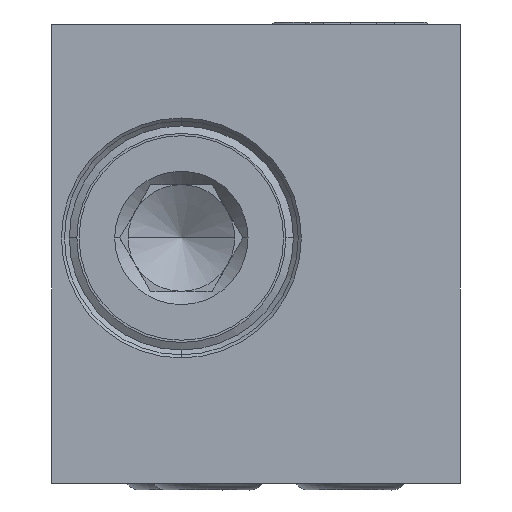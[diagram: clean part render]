
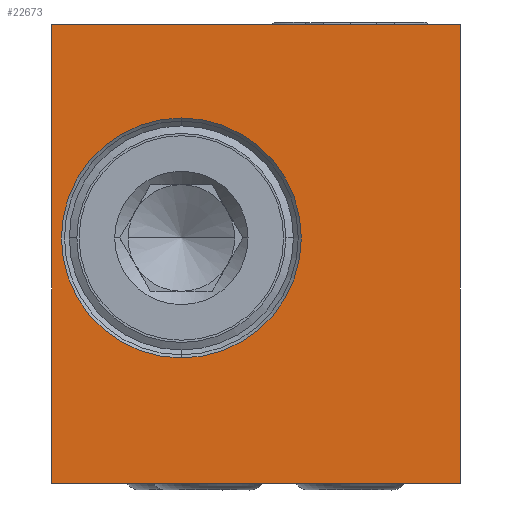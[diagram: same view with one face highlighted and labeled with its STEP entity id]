
A CAD part, left-side view. The second image highlights one B-rep face of the part: STEP entity #22673.
In plain terms, the highlighted planar face has unit normal (-1, 0, 0).
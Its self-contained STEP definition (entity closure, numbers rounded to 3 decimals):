
#4281=DIRECTION('',(0.,0.,1.));
#4282=VECTOR('',#4281,25.8);
#4283=CARTESIAN_POINT('',(-38.,11.5,-12.9));
#4284=LINE('',#4283,#4282);
#4285=DIRECTION('',(0.,-1.,0.));
#4286=VECTOR('',#4285,23.);
#4287=CARTESIAN_POINT('',(-38.,11.5,12.9));
#4288=LINE('',#4287,#4286);
#4289=DIRECTION('',(0.,0.,-1.));
#4290=VECTOR('',#4289,25.8);
#4291=CARTESIAN_POINT('',(-38.,-11.5,12.9));
#4292=LINE('',#4291,#4290);
#4293=DIRECTION('',(0.,1.,0.));
#4294=VECTOR('',#4293,23.);
#4295=CARTESIAN_POINT('',(-38.,-11.5,-12.9));
#4296=LINE('',#4295,#4294);
#4297=CARTESIAN_POINT('',(-38.,4.2,0.9));
#4298=DIRECTION('',(-1.,0.,0.));
#4299=DIRECTION('',(0.,0.,-1.));
#4300=AXIS2_PLACEMENT_3D('',#4297,#4298,#4299);
#4302=CARTESIAN_POINT('',(-38.,4.2,0.9));
#4303=DIRECTION('',(-1.,0.,0.));
#4304=DIRECTION('',(0.,0.,1.));
#4305=AXIS2_PLACEMENT_3D('',#4302,#4303,#4304);
#15367=CARTESIAN_POINT('',(-38.,11.5,12.9));
#15368=VERTEX_POINT('',#15367);
#15369=CARTESIAN_POINT('',(-38.,11.5,-12.9));
#15370=VERTEX_POINT('',#15369);
#15371=CARTESIAN_POINT('',(-38.,-11.5,12.9));
#15372=VERTEX_POINT('',#15371);
#15393=CARTESIAN_POINT('',(-38.,-11.5,-12.9));
#15394=VERTEX_POINT('',#15393);
#15439=CARTESIAN_POINT('',(-38.,4.2,-5.85));
#15440=CARTESIAN_POINT('',(-38.,4.2,7.65));
#15441=VERTEX_POINT('',#15439);
#15442=VERTEX_POINT('',#15440);
#22654=CARTESIAN_POINT('',(-38.,0.,0.));
#22655=DIRECTION('',(-1.,0.,0.));
#22656=DIRECTION('',(0.,-1.,0.));
#22657=AXIS2_PLACEMENT_3D('',#22654,#22655,#22656);
#22658=PLANE('',#22657);
#22659=ORIENTED_EDGE('',*,*,#22647,.T.);
#22660=ORIENTED_EDGE('',*,*,#20271,.T.);
#22662=ORIENTED_EDGE('',*,*,#22661,.T.);
#22664=ORIENTED_EDGE('',*,*,#22663,.T.);
#22665=EDGE_LOOP('',(#22659,#22660,#22662,#22664));
#22666=FACE_OUTER_BOUND('',#22665,.F.);
#22668=ORIENTED_EDGE('',*,*,#22667,.T.);
#22670=ORIENTED_EDGE('',*,*,#22669,.T.);
#22671=EDGE_LOOP('',(#22668,#22670));
#22672=FACE_BOUND('',#22671,.F.);
#22673=ADVANCED_FACE('',(#22666,#22672),#22658,.T.);
#4301=CIRCLE('',#4300,6.75);
#4306=CIRCLE('',#4305,6.75);
#20271=EDGE_CURVE('',#15368,#15372,#4288,.T.);
#22647=EDGE_CURVE('',#15370,#15368,#4284,.T.);
#22661=EDGE_CURVE('',#15372,#15394,#4292,.T.);
#22663=EDGE_CURVE('',#15394,#15370,#4296,.T.);
#22667=EDGE_CURVE('',#15441,#15442,#4301,.T.);
#22669=EDGE_CURVE('',#15442,#15441,#4306,.T.);
